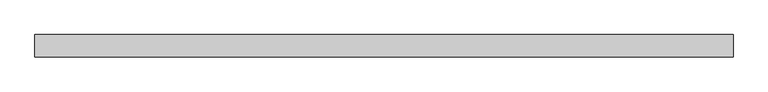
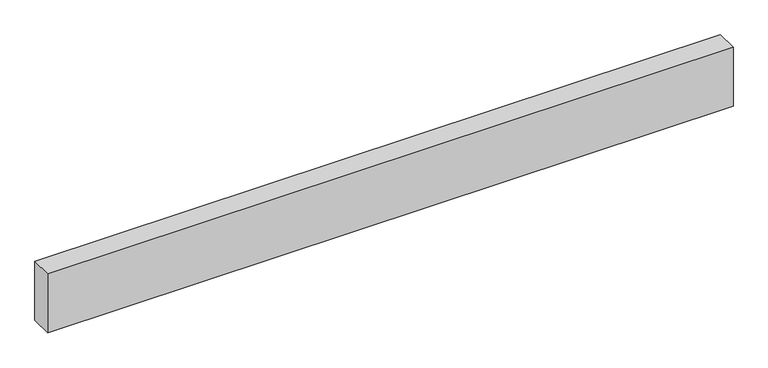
"""IFC4 building model written with IfcOpenShell, lengths in millimetres: proxy geometry."""

from ifc_helpers import new_model, si_unit, frame, origin, place, context, project, spatial, polyline, outline, extrude, source, transform, mapped, element, save


def structural_framing_1b804acc(model_context):
    return source(origin(), model_context, "Body", "SweptSolid", [
        extrude(outline(polyline([(-2197.8, -70.0), (-2197.8, 70.0), (2197.8, 70.0), (2197.8, -70.0), (-2197.8, -70.0)])), frame((0.0, 0.0, -400.0), z_axis=(0.0, 0.0, 1.0), x_axis=(1.0, 0.0, 0.0)), (0.0, 0.0, 1.0), 400.0),
    ])


if __name__ == "__main__":
    model = new_model("IFC4")
    model_context = context("Model", 3, world=origin())
    ifc_project = project(units=[si_unit("LENGTHUNIT", "METRE", prefix="MILLI")], contexts=[model_context])
    site = spatial("IfcSite", under=ifc_project)
    building = spatial("IfcBuilding", under=site)
    placement = place(None, origin())
    structural_framing_shape = structural_framing_1b804acc(model_context)
    element("IfcBuildingElementProxy", 1, Name="Structural Framing", at=placement, inside=building, context=model_context, shape_type="MappedRepresentation", body=[
        mapped(structural_framing_shape, transform((0.0, 0.0, 0.0), x_axis=(1.0, 0.0, 0.0), y_axis=(0.0, 1.0, 0.0), z_axis=(0.0, 0.0, 1.0))),
    ])
    save(model, "model.ifc")
